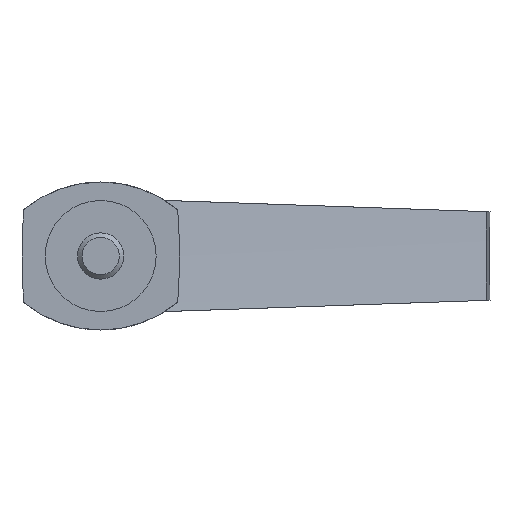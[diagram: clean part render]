
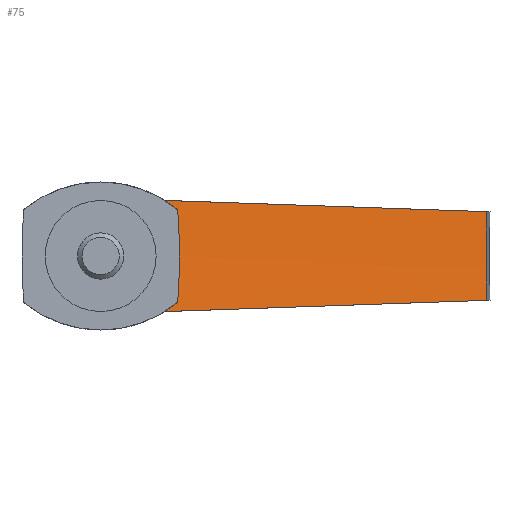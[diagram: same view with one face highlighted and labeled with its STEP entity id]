
A CAD part, front view. The second image highlights one B-rep face of the part: STEP entity #75.
In plain terms, the highlighted conical face has half-angle 70 degrees and reference radius 178 mm.
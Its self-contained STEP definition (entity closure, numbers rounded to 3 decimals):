
#75 = ADVANCED_FACE( '', ( #100 ), #101, .F. );
#100 = FACE_OUTER_BOUND( '', #156, .T. );
#101 = CONICAL_SURFACE( '', #157, 178., 1.222 );
#156 = EDGE_LOOP( '', ( #212, #213, #214, #215, #216, #217 ) );
#157 = AXIS2_PLACEMENT_3D( '', #218, #219, #220 );
#212 = ORIENTED_EDGE( '', *, *, #384, .F. );
#213 = ORIENTED_EDGE( '', *, *, #385, .T. );
#214 = ORIENTED_EDGE( '', *, *, #386, .T. );
#215 = ORIENTED_EDGE( '', *, *, #387, .F. );
#216 = ORIENTED_EDGE( '', *, *, #388, .F. );
#217 = ORIENTED_EDGE( '', *, *, #389, .F. );
#218 = CARTESIAN_POINT( '', ( 179., 12.088, 0. ) );
#219 = DIRECTION( '', ( 0., -1., 0. ) );
#220 = DIRECTION( '', ( 0., 0., -1. ) );
#384 = EDGE_CURVE( '', #434, #435, #436, .T. );
#385 = EDGE_CURVE( '', #434, #437, #438, .T. );
#386 = EDGE_CURVE( '', #437, #439, #440, .T. );
#387 = EDGE_CURVE( '', #441, #439, #442, .T. );
#388 = EDGE_CURVE( '', #443, #441, #444, .T. );
#389 = EDGE_CURVE( '', #435, #443, #445, .T. );
#434 = VERTEX_POINT( '', #520 );
#435 = VERTEX_POINT( '', #521 );
#436 = B_SPLINE_CURVE_WITH_KNOTS( '', 3, ( #522, #523, #524, #525 ), .UNSPECIFIED., .F., .F., ( 4, 4 ), ( 0., 0.002 ), .UNSPECIFIED. );
#437 = VERTEX_POINT( '', #526 );
#438 = LINE( '', #527, #528 );
#439 = VERTEX_POINT( '', #529 );
#440 = CIRCLE( '', #530, 137.347 );
#441 = VERTEX_POINT( '', #531 );
#442 = LINE( '', #532, #533 );
#443 = VERTEX_POINT( '', #534 );
#444 = B_SPLINE_CURVE_WITH_KNOTS( '', 3, ( #535, #536, #537, #538 ), .UNSPECIFIED., .F., .F., ( 4, 4 ), ( 0., 0.002 ), .UNSPECIFIED. );
#445 = B_SPLINE_CURVE_WITH_KNOTS( '', 3, ( #539, #540, #541, #542 ), .UNSPECIFIED., .F., .F., ( 4, 4 ), ( 0., 0.01 ), .UNSPECIFIED. );
#520 = CARTESIAN_POINT( '', ( 6.926, 14.207, -6.009 ) );
#521 = CARTESIAN_POINT( '', ( 8.322, 14.727, -5. ) );
#522 = CARTESIAN_POINT( '', ( 6.926, 14.207, -6.009 ) );
#523 = CARTESIAN_POINT( '', ( 7.411, 14.387, -5.705 ) );
#524 = CARTESIAN_POINT( '', ( 7.877, 14.561, -5.369 ) );
#525 = CARTESIAN_POINT( '', ( 8.322, 14.727, -5. ) );
#526 = CARTESIAN_POINT( '', ( 41.737, 26.885, -4.793 ) );
#527 = CARTESIAN_POINT( '', ( 1.108, 12.088, -6.212 ) );
#528 = VECTOR( '', #642, 1000. );
#529 = CARTESIAN_POINT( '', ( 41.737, 26.885, 4.793 ) );
#530 = AXIS2_PLACEMENT_3D( '', #643, #644, #645 );
#531 = CARTESIAN_POINT( '', ( 6.926, 14.207, 6.009 ) );
#532 = CARTESIAN_POINT( '', ( 1.108, 12.088, 6.212 ) );
#533 = VECTOR( '', #646, 1000. );
#534 = CARTESIAN_POINT( '', ( 8.322, 14.727, 5. ) );
#535 = CARTESIAN_POINT( '', ( 8.322, 14.727, 5. ) );
#536 = CARTESIAN_POINT( '', ( 7.877, 14.561, 5.369 ) );
#537 = CARTESIAN_POINT( '', ( 7.411, 14.387, 5.705 ) );
#538 = CARTESIAN_POINT( '', ( 6.926, 14.207, 6.009 ) );
#539 = CARTESIAN_POINT( '', ( 8.322, 14.727, -5. ) );
#540 = CARTESIAN_POINT( '', ( 8.596, 14.862, -1.667 ) );
#541 = CARTESIAN_POINT( '', ( 8.596, 14.862, 1.667 ) );
#542 = CARTESIAN_POINT( '', ( 8.322, 14.727, 5. ) );
#642 = DIRECTION( '', ( 0.939, 0.342, 0.033 ) );
#643 = CARTESIAN_POINT( '', ( 179., 26.885, 0. ) );
#644 = DIRECTION( '', ( 0., 1., 0. ) );
#645 = DIRECTION( '', ( 0., 0., 1. ) );
#646 = DIRECTION( '', ( 0.939, 0.342, -0.033 ) );
